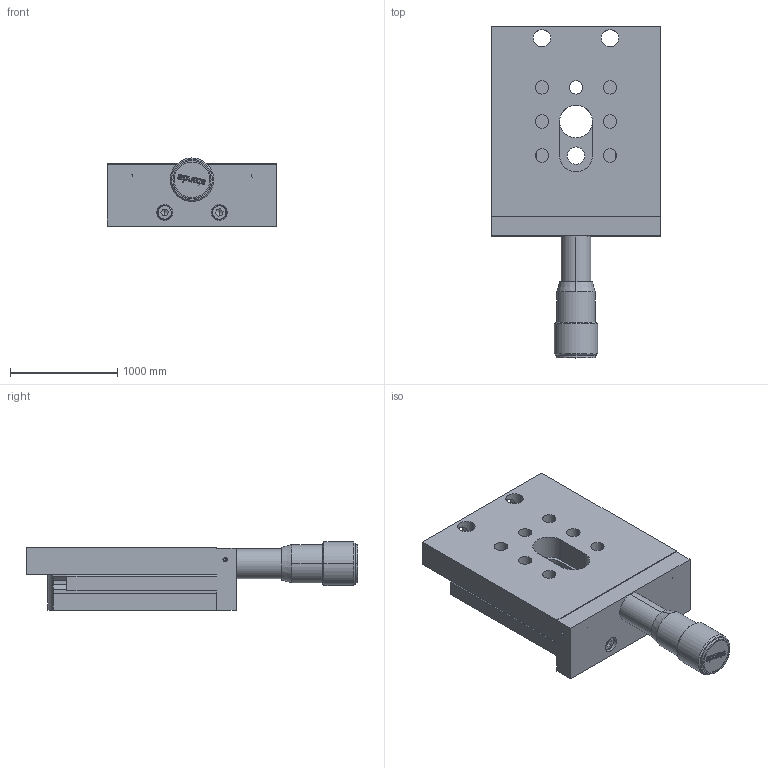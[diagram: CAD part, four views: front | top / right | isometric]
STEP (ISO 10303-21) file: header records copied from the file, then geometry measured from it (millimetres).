
FILE_DESCRIPTION (( 'STEP AP203' ), '1' );
FILE_NAME ('7T125Z-10.STEP', '2009-04-07T12:10:20', ( 'ramunas' ), ( '' ), 'SwSTEP 2.0', 'SolidWorks 2003240', '' );
FILE_SCHEMA (( 'CONFIG_CONTROL_DESIGN' ));
Products named in the file (1): 7T125Z-10
Bounding box: 1574.8 x 3091.58 x 635 mm (x, y, z)
Volume: 1342289100 mm3; surface area: 24001991.3 mm2
Topology: 1 solids, 49 shells, 1047 faces, 2637 edges, 1665 vertices
Faces by surface type: plane 397, cylinder 339, cone 196, bspline 115
Entity records: 36929 total; most frequent: CARTESIAN_POINT 12635, ORIENTED_EDGE 5026, DIRECTION 4878, EDGE_CURVE 2513, AXIS2_PLACEMENT_3D 1828, VERTEX_POINT 1665, EDGE_LOOP 1232, VECTOR 1222
